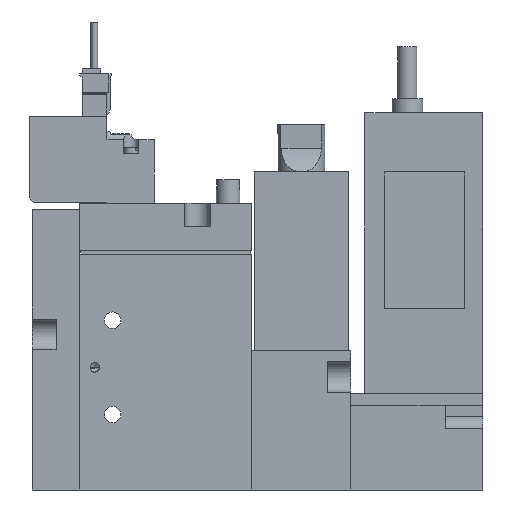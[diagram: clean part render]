
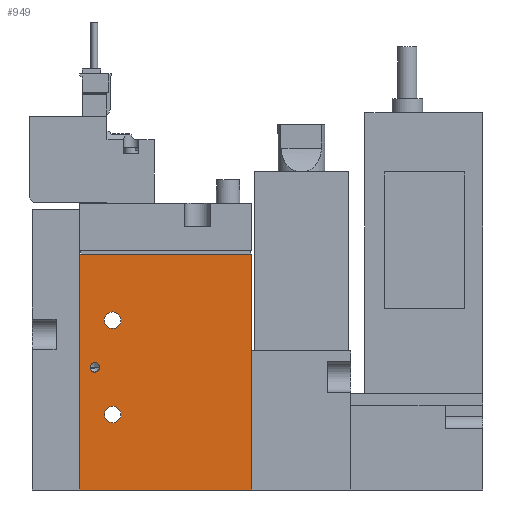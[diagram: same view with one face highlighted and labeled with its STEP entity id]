
A CAD part, left-side view. The second image highlights one B-rep face of the part: STEP entity #949.
In plain terms, the highlighted planar face has unit normal (-1, 0, 0) as drawn and (1, 0, 0) by its records, which use the part's own axes.
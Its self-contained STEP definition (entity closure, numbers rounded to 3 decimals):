
#949=ADVANCED_FACE('',(#1481,#1482,#1483,#1484),#1485,.F.);
#1481=FACE_BOUND('',#2362,.T.);
#1482=FACE_BOUND('',#2363,.T.);
#1483=FACE_BOUND('',#2364,.T.);
#1484=FACE_OUTER_BOUND('',#2365,.T.);
#1485=PLANE('',#2366);
#2362=EDGE_LOOP('',(#3722));
#2363=EDGE_LOOP('',(#3723));
#2364=EDGE_LOOP('',(#3724));
#2365=EDGE_LOOP('',(#3725,#3726,#3727,#3728));
#2366=AXIS2_PLACEMENT_3D('',#3729,#3730,#3731);
#3722=ORIENTED_EDGE('',*,*,#6202,.F.);
#3723=ORIENTED_EDGE('',*,*,#6203,.T.);
#3724=ORIENTED_EDGE('',*,*,#6204,.T.);
#3725=ORIENTED_EDGE('',*,*,#6205,.T.);
#3726=ORIENTED_EDGE('',*,*,#6206,.F.);
#3727=ORIENTED_EDGE('',*,*,#6207,.F.);
#3728=ORIENTED_EDGE('',*,*,#6208,.T.);
#3729=CARTESIAN_POINT('',(8.5,-19.444,50.0));
#3730=DIRECTION('',(-1.0,0.0,0.0));
#3731=DIRECTION('',(0.0,0.0,1.0));
#6202=EDGE_CURVE('',#7279,#7279,#7280,.T.);
#6203=EDGE_CURVE('',#7281,#7281,#7282,.T.);
#6204=EDGE_CURVE('',#7283,#7283,#7284,.T.);
#6205=EDGE_CURVE('',#7285,#7286,#7287,.T.);
#6206=EDGE_CURVE('',#7288,#7286,#7289,.T.);
#6207=EDGE_CURVE('',#7290,#7288,#7291,.T.);
#6208=EDGE_CURVE('',#7290,#7285,#7292,.T.);
#7279=VERTEX_POINT('',#9062);
#7280=CIRCLE('',#9063,1.0);
#7281=VERTEX_POINT('',#9064);
#7282=CIRCLE('',#9065,1.75);
#7283=VERTEX_POINT('',#9066);
#7284=CIRCLE('',#9067,1.75);
#7285=VERTEX_POINT('',#9068);
#7286=VERTEX_POINT('',#9069);
#7287=LINE('',#9070,#9071);
#7288=VERTEX_POINT('',#9072);
#7289=LINE('',#9073,#9074);
#7290=VERTEX_POINT('',#9075);
#7291=LINE('',#9076,#9077);
#7292=LINE('',#9078,#9079);
#9062=CARTESIAN_POINT('',(8.5,-17.244,26.0));
#9063=AXIS2_PLACEMENT_3D('',#11175,#11176,#11177);
#9064=CARTESIAN_POINT('',(8.5,-10.694,36.0));
#9065=AXIS2_PLACEMENT_3D('',#11178,#11179,#11180);
#9066=CARTESIAN_POINT('',(8.5,-10.694,16.0));
#9067=AXIS2_PLACEMENT_3D('',#11181,#11182,#11183);
#9068=CARTESIAN_POINT('',(8.5,-19.444,0.0));
#9069=CARTESIAN_POINT('',(8.5,17.056,0.0));
#9070=CARTESIAN_POINT('',(8.5,-19.444,0.0));
#9071=VECTOR('',#11184,1.0);
#9072=CARTESIAN_POINT('',(8.5,17.056,50.0));
#9073=CARTESIAN_POINT('',(8.5,17.056,50.0));
#9074=VECTOR('',#11185,1.0);
#9075=CARTESIAN_POINT('',(8.5,-19.444,50.0));
#9076=CARTESIAN_POINT('',(8.5,-19.444,50.0));
#9077=VECTOR('',#11186,1.0);
#9078=CARTESIAN_POINT('',(8.5,-19.444,50.0));
#9079=VECTOR('',#11187,1.0);
#11175=CARTESIAN_POINT('',(8.5,-16.244,26.0));
#11176=DIRECTION('',(1.0,0.,0.0));
#11177=DIRECTION('',(0.,-1.0,0.0));
#11178=CARTESIAN_POINT('',(8.5,-12.444,36.0));
#11179=DIRECTION('',(-1.0,0.0,0.0));
#11180=DIRECTION('',(0.0,1.0,0.0));
#11181=CARTESIAN_POINT('',(8.5,-12.444,16.0));
#11182=DIRECTION('',(-1.0,0.0,0.0));
#11183=DIRECTION('',(0.0,1.0,0.0));
#11184=DIRECTION('',(0.0,1.0,0.0));
#11185=DIRECTION('',(0.0,0.0,-1.0));
#11186=DIRECTION('',(0.0,1.0,0.0));
#11187=DIRECTION('',(0.0,0.0,-1.0));
